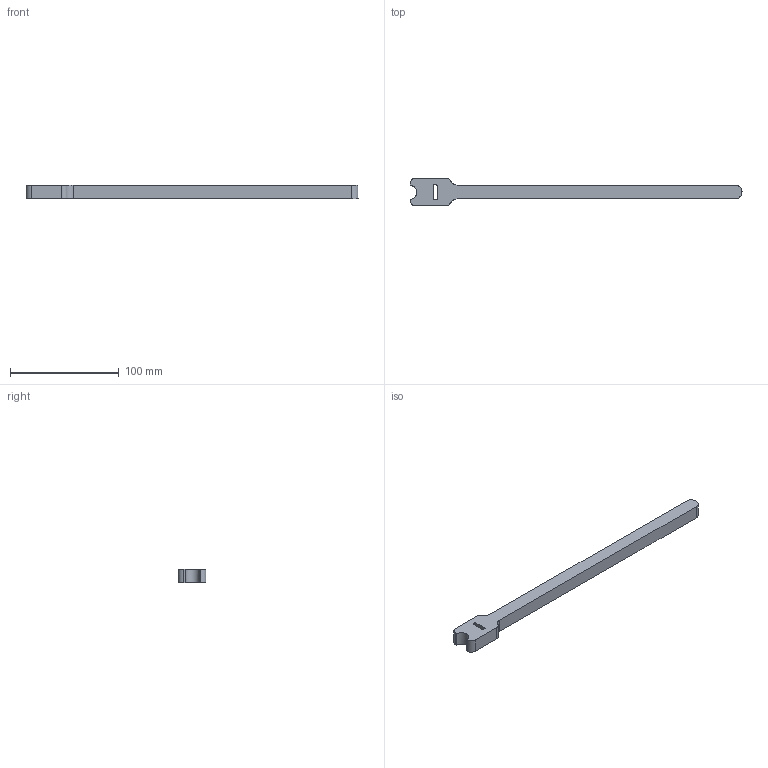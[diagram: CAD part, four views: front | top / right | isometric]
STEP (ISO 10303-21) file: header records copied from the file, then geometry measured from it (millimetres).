
FILE_DESCRIPTION(( 'STEP AP203 file generated by I-DEAS Master Series'),'2;1');
FILE_NAME('D:\a00506\e-cw12y.stp','2001-10-10T08:37:51',('A00506'),( 'unspecified'),'I-DEAS Master Series 7m2 : Design', 'I-DEAS Master Series 7m2 : Design','unspecified');
FILE_SCHEMA(('CONFIG_CONTROL_DESIGN'));
Length unit declared in the file: millimetre
Bounding box: 304.79 x 25.4 x 12.7 mm (x, y, z)
Volume: 53614.9 mm3; surface area: 17100.4 mm2
Topology: 1 solids, 1 shells, 24 faces, 66 edges, 44 vertices
Faces by surface type: bspline 24
Entity records: 807 total; most frequent: CARTESIAN_POINT 336, ORIENTED_EDGE 132, EDGE_CURVE 66, VERTEX_POINT 44, B_SPLINE_CURVE_WITH_KNOTS 32, EDGE_LOOP 26, FACE_OUTER_BOUND 24, ADVANCED_FACE 24
